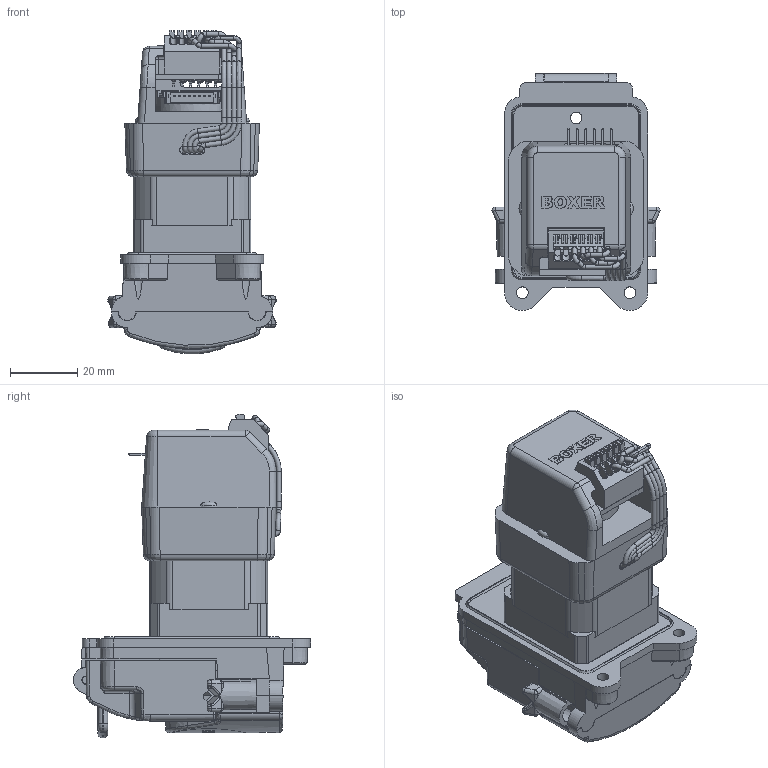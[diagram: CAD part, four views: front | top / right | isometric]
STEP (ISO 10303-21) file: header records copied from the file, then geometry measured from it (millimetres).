
FILE_DESCRIPTION (( 'STEP AP203' ), '1' );
FILE_NAME ('9862.7x0_9QX+Drv+Enc.STEP', '2024-06-13T14:31:47', ( '' ), ( '' ), 'SwSTEP 2.0', 'SolidWorks 2021', '' );
FILE_SCHEMA (( 'CONFIG_CONTROL_DESIGN' ));
Length unit declared in the file: millimetre
Products named in the file (17): 9000.2001_Rev00_RollerG2_D8.6; 9000.3040_Rev00_9QXScrewCover; K0757_2.5x10_DowelPin; K0965_2.5x14_DowelPin; 15000.5009_Rev_PicoDriverAssy; 9000.3031_Rev01_9QX_TubeSaddle; 9000.3013_Rev00_Lever; 9000.3029_Rev00_9QX_Clamp_Pre Mod; countersunk flat head cross recess screw_iso_ISO 7046-1 - M3 x 16 - Z - 16S; 9862.7x0_9QX+Drv+Enc; 9000.3047_Rev01_9QX_GasketForCombiPlate; countersunk flat head cross recess screw_iso_ISO 7046-1 - M2 x 8 - Z - 8S; 9000.3049_Rev00_PicoHoodEncoder; 9000.3030_Rev00_9QX_Front; 1678_Soyo_NU35STH36-1004A_Encoder_Pico Long Leads; 9000.3046_Rev00_9QX_StepperPlateCombi_11_01_22; K0315_M3X12MM_TX_DIN7985-ISO14583_M3X12mm
Assembly tree (23 placements, depth 2):
  9862.7x0_9QX+Drv+Enc
    9000.3046_Rev00_9QX_StepperPlateCombi_11_01_22
    9000.3047_Rev01_9QX_GasketForCombiPlate
    1678_Soyo_NU35STH36-1004A_Encoder_Pico Long Leads
    9000.3029_Rev00_9QX_Clamp_Pre Mod
    9000.3013_Rev00_Lever
    9000.3030_Rev00_9QX_Front
    K0965_2.5x14_DowelPin  x2
    9000.2001_Rev00_RollerG2_D8.6  x2
    9000.3049_Rev00_PicoHoodEncoder
    15000.5009_Rev_PicoDriverAssy
    K0315_M3X12MM_TX_DIN7985-ISO14583_M3X12mm  x4
    K0757_2.5x10_DowelPin  x2
    countersunk flat head cross recess screw_iso_ISO 7046-1 - M3 x 16 - Z - 16S
    countersunk flat head cross recess screw_iso_ISO 7046-1 - M2 x 8 - Z - 8S
    9000.3031_Rev01_9QX_TubeSaddle  x2
    9000.3040_Rev00_9QXScrewCover
Bounding box: 50 x 70.52 x 96.24 mm (x, y, z)
Volume: 102383.3 mm3; surface area: 62655.3 mm2
Topology: 31 solids, 37 shells, 3460 faces, 8723 edges, 5397 vertices
Faces by surface type: plane 1621, cylinder 830, bspline 471, cone 295, torus 179, sphere 64
Full cylindrical faces by diameter (mm): 0.457 x1, 0.5 x16, 0.61 x32, 0.65 x5, 0.857 x4, 0.889 x11, 1 x6, 1.2 x2, 1.4 x25, 2 x19, 2.4 x1, 2.5 x15, 2.55 x2, 2.7 x2, 2.8 x4, 2.95 x2, 3 x34, 3.2 x4, 3.5 x7, 3.8 x1, 4 x3, 5 x5, 5.12 x2, 5.2 x1, 5.5 x1, 5.6 x4, 5.8 x4, 6 x2, 7 x1, 8.6 x2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
Entity records: 110490 total; most frequent: CARTESIAN_POINT 36481, ORIENTED_EDGE 15380, DIRECTION 13800, EDGE_CURVE 7690, VERTEX_POINT 5014, AXIS2_PLACEMENT_3D 4880, VECTOR 4040, LINE 4040
